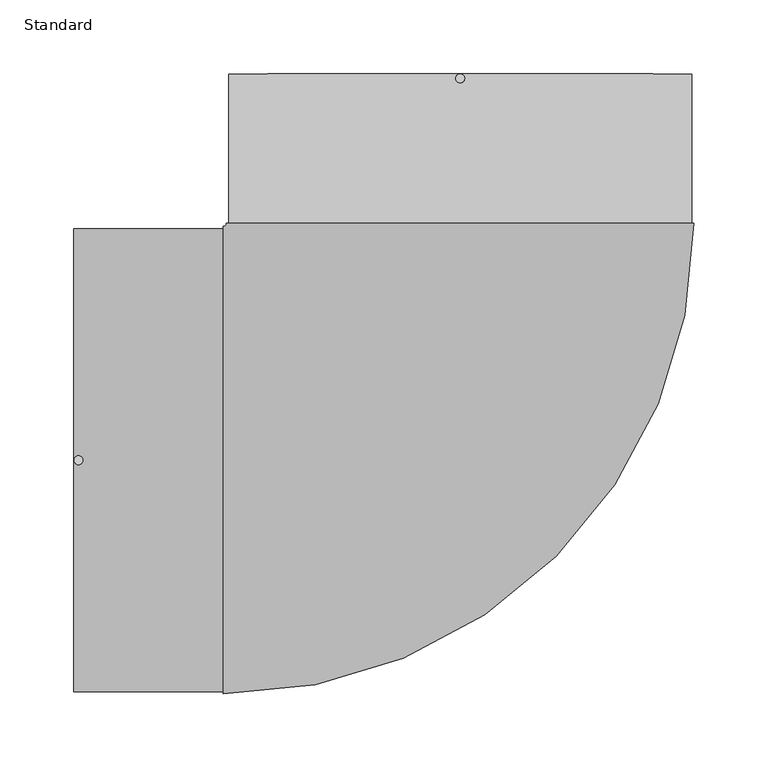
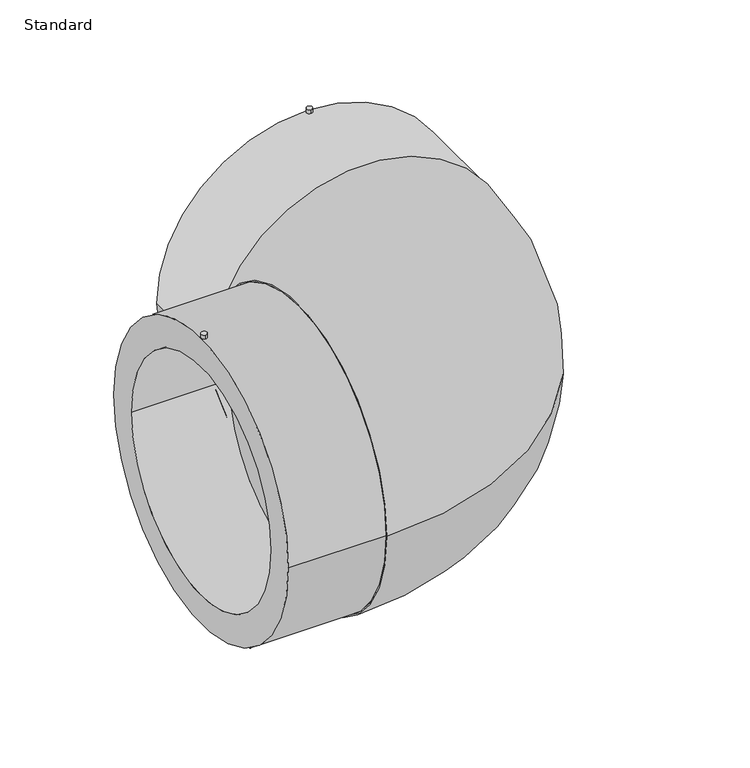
"""IFC4 building model written with IfcOpenShell, lengths in millimetres: pipe fitting geometry, EGB_VASEN_ PPR_Codo electrosoldable 90 WXRD200_Codo electrosoldable 45 WXRD220 : Standard."""

from ifc_helpers import new_model, si_unit, point, frame, frame_2d, origin, place, context, project, spatial, polyline, circle_curve, ellipse_curve, trimmed, segment, composite_curve, outline, extrude, source, transform, mapped, element, save
from ifc_brep_helpers import plane_surface, cylinder_surface, revolved_surface, advanced_brep


def standard_2cbca5f6(model_context):
    return source(origin(), model_context, "Body", "SolidModel", [
        advanced_brep(
        [(-261.0, -156.5, 0.0), (-261.0, 156.5, 0.0), (-261.0, -125.0, 0.0), (-261.0, 125.0, 0.0), (-160.0, -156.5, 0.0), (-160.0, 156.5, 0.0), (-160.0, -125.0, 0.0), (-160.0, 125.0, 0.0), (-160.0, -158.0, 0.0), (-160.0, 158.0, 0.0), (158.0, 160.0, 0.0), (-158.0, 160.0, 0.0), (156.5, 160.0, 0.0), (-156.5, 160.0, 0.0), (125.0, 160.0, 0.0), (-125.0, 160.0, 0.0), (156.5, 261.0, 0.0), (-156.5, 261.0, 0.0), (125.0, 261.0, 0.0), (-125.0, 261.0, 0.0)],
        [
            (0, 1, circle_curve(frame((-261.0, 0.0, 0.0), z_axis=(-1.0, 0.0, 0.0), x_axis=(0.0, 1.0, 0.0)), 156.5)),
            (1, 0, circle_curve(frame((-261.0, 0.0, 0.0), z_axis=(-1.0, 0.0, 0.0), x_axis=(0.0, 1.0, 0.0)), 156.5)),
            (2, 3, circle_curve(frame((-261.0, 0.0, 0.0), z_axis=(1.0, 0.0, 0.0), x_axis=(0.0, 1.0, 0.0)), 125.0)),
            (3, 2, circle_curve(frame((-261.0, 0.0, 0.0), z_axis=(1.0, 0.0, 0.0), x_axis=(0.0, 1.0, 0.0)), 125.0)),
            (0, 4),
            (4, 5, circle_curve(frame((-160.0, 0.0, 0.0), z_axis=(-1.0, 0.0, 0.0), x_axis=(0.0, 1.0, 0.0)), 156.5)),
            (5, 1),
            (5, 4, circle_curve(frame((-160.0, 0.0, 0.0), z_axis=(-1.0, 0.0, 0.0), x_axis=(0.0, 1.0, 0.0)), 156.5)),
            (2, 6),
            (6, 7, circle_curve(frame((-160.0, 0.0, 0.0), z_axis=(1.0, 0.0, 0.0), x_axis=(0.0, 1.0, 0.0)), 125.0)),
            (7, 3),
            (7, 6, circle_curve(frame((-160.0, 0.0, 0.0), z_axis=(1.0, 0.0, 0.0), x_axis=(0.0, 1.0, 0.0)), 125.0)),
            (8, 9, circle_curve(frame((-160.0, 0.0, 0.0), z_axis=(-1.0, 0.0, 0.0), x_axis=(0.0, 1.0, 0.0)), 158.0)),
            (9, 8, circle_curve(frame((-160.0, 0.0, 0.0), z_axis=(-1.0, 0.0, 0.0), x_axis=(0.0, 1.0, 0.0)), 158.0)),
            (10, 11, circle_curve(frame((0.0, 160.0, 0.0), z_axis=(0.0, 1.0, 0.0), x_axis=(-1.0, 0.0, 0.0)), 158.0)),
            (11, 10, circle_curve(frame((0.0, 160.0, 0.0), z_axis=(0.0, 1.0, 0.0), x_axis=(-1.0, 0.0, 0.0)), 158.0)),
            (12, 13, circle_curve(frame((0.0, 160.0, 0.0), z_axis=(0.0, -1.0, 0.0), x_axis=(-1.0, 0.0, 0.0)), 156.5)),
            (13, 12, circle_curve(frame((0.0, 160.0, 0.0), z_axis=(0.0, -1.0, 0.0), x_axis=(-1.0, 0.0, 0.0)), 156.5)),
            (14, 15, circle_curve(frame((0.0, 160.0, 0.0), z_axis=(0.0, 1.0, 0.0), x_axis=(-1.0, 0.0, 0.0)), 125.0)),
            (15, 14, circle_curve(frame((0.0, 160.0, 0.0), z_axis=(0.0, 1.0, 0.0), x_axis=(-1.0, 0.0, 0.0)), 125.0)),
            (8, 10, circle_curve(frame((-160.0, 160.0, 0.0), z_axis=(0.0, 0.0, 1.0), x_axis=(0.0, -1.0, 0.0)), 318.0)),
            (11, 9, circle_curve(frame((-160.0, 160.0, 0.0), z_axis=(0.0, 0.0, -1.0), x_axis=(0.0, -1.0, 0.0)), 2.0)),
            (16, 17, circle_curve(frame((0.0, 261.0, 0.0), z_axis=(0.0, 1.0, 0.0), x_axis=(-1.0, 0.0, 0.0)), 156.5)),
            (17, 16, circle_curve(frame((0.0, 261.0, 0.0), z_axis=(0.0, 1.0, 0.0), x_axis=(-1.0, 0.0, 0.0)), 156.5)),
            (18, 19, circle_curve(frame((0.0, 261.0, 0.0), z_axis=(0.0, -1.0, 0.0), x_axis=(-1.0, 0.0, 0.0)), 125.0)),
            (19, 18, circle_curve(frame((0.0, 261.0, 0.0), z_axis=(0.0, -1.0, 0.0), x_axis=(-1.0, 0.0, 0.0)), 125.0)),
            (17, 13),
            (12, 16),
            (19, 15),
            (14, 18),
        ],
        [
            plane_surface(frame((-261.0, 0.0, 0.0), z_axis=(-1.0, 0.0, 0.0), x_axis=(0.0, 0.0, 1.0))),
            cylinder_surface(frame((-261.0, 0.0, 0.0), z_axis=(-1.0, 0.0, 0.0), x_axis=(0.0, 1.0, 0.0)), 156.5),
            revolved_surface(polyline([(-160.0, 125.0, 0.0), (-261.0, 125.0, 0.0)]), (-261.0, 0.0, 0.0), (1.0, 0.0, 0.0)),
            plane_surface(frame((-160.0, 0.0, 0.0), z_axis=(-1.0, 0.0, 0.0), x_axis=(0.0, 0.0, 1.0))),
            plane_surface(frame((0.0, 160.0, 0.0), z_axis=(0.0, 1.0, 0.0), x_axis=(0.0, 0.0, 1.0))),
            revolved_surface(trimmed(ellipse_curve(frame((-160.0, 0.0, 0.0), z_axis=(-1.0, 0.0, 0.0), x_axis=(0.0, 1.0, 0.0)), 158.0, 158.0), [point((-160.0, -158.0, 0.0))], [point((-160.0, 158.0, 0.0))], True, "CARTESIAN"), (-160.0, 160.0, 0.0), (0.0, 0.0, 1.0)),
            revolved_surface(trimmed(ellipse_curve(frame((-160.0, 0.0, 0.0), z_axis=(-1.0, 0.0, 0.0), x_axis=(0.0, 1.0, 0.0)), 158.0, 158.0), [point((-160.0, 158.0, 0.0))], [point((-160.0, -158.0, 0.0))], True, "CARTESIAN"), (-160.0, 160.0, 0.0), (0.0, 0.0, 1.0)),
            plane_surface(frame((0.0, 261.0, 0.0), z_axis=(0.0, 1.0, 0.0), x_axis=(0.0, 0.0, 1.0))),
            cylinder_surface(frame((0.0, 160.0, 0.0), z_axis=(0.0, -1.0, 0.0), x_axis=(-1.0, 0.0, 0.0)), 156.5),
            revolved_surface(polyline([(-125.0, 261.0, 0.0), (-125.0, 160.0, 0.0)]), (0.0, 160.0, 0.0), (0.0, 1.0, 0.0)),
        ],
        [
            (0, [[1, 2], [3, 4]]),
            (1, [[-1, 5, 6, 7]]),
            (1, [[-2, -7, 8, -5]]),
            (2, [[-3, 9, 10, 11]]),
            (2, [[-4, -11, 12, -9]]),
            (3, [[-10, -12]]),
            (3, [[13, 14], [-6, -8]]),
            (4, [[15, 16], [17, 18]]),
            (4, [[19, 20]]),
            (5, [[-13, 21, -16, 22]]),
            (6, [[-14, -22, -15, -21]]),
            (7, [[23, 24], [25, 26]]),
            (8, [[-24, 27, -17, 28]]),
            (8, [[-23, -28, -18, -27]]),
            (9, [[-26, 29, -19, 30]]),
            (9, [[-25, -30, -20, -29]]),
        ],
    ),
        extrude(outline(composite_curve([segment(trimmed(circle_curve(frame_2d((0.0, 258.0)), 3.0), [point((0.0, 255.0))], [point((0.0, 261.0))], False, "CARTESIAN"), True, "CONTINUOUS"), segment(trimmed(circle_curve(frame_2d((0.0, 258.0)), 3.0), [point((0.0, 261.0))], [point((0.0, 255.0))], False, "CARTESIAN"), True, "CONTINUOUS")], self_intersect=False)), frame((0.0, 0.0, 126.0), z_axis=(0.0, 0.0, 1.0), x_axis=(1.0, 0.0, 0.0)), (0.0, 0.0, 1.0), 35.0),
        extrude(outline(composite_curve([segment(trimmed(circle_curve(frame_2d((-258.0, 0.0)), 3.0), [point((-258.0, -3.0))], [point((-258.0, 3.0))], False, "CARTESIAN"), True, "CONTINUOUS"), segment(trimmed(circle_curve(frame_2d((-258.0, 0.0)), 3.0), [point((-258.0, 3.0))], [point((-258.0, -3.0))], False, "CARTESIAN"), True, "CONTINUOUS")], self_intersect=False)), frame((0.0, 0.0, 126.0), z_axis=(0.0, 0.0, 1.0), x_axis=(1.0, 0.0, 0.0)), (0.0, 0.0, 1.0), 35.0),
    ])


if __name__ == "__main__":
    model = new_model("IFC4")
    model_context = context("Model", 3, world=origin())
    ifc_project = project(units=[si_unit("LENGTHUNIT", "METRE", prefix="MILLI")], contexts=[model_context])
    site = spatial("IfcSite", under=ifc_project)
    building = spatial("IfcBuilding", under=site)
    placement = place(None, origin())
    standard_shape = standard_2cbca5f6(model_context)
    element("IfcPipeFitting", 1, ObjectType="EGB_VASEN_ PPR_Codo electrosoldable 90 WXRD200_Codo electrosoldable 45 WXRD220 : Standard", at=placement, inside=building, context=model_context, shape_type="MappedRepresentation", body=[
        mapped(standard_shape, transform((0.0, 0.0, 0.0), x_axis=(1.0, 0.0, 0.0), y_axis=(0.0, 1.0, 0.0), z_axis=(0.0, 0.0, 1.0))),
    ])
    save(model, "model.ifc")
